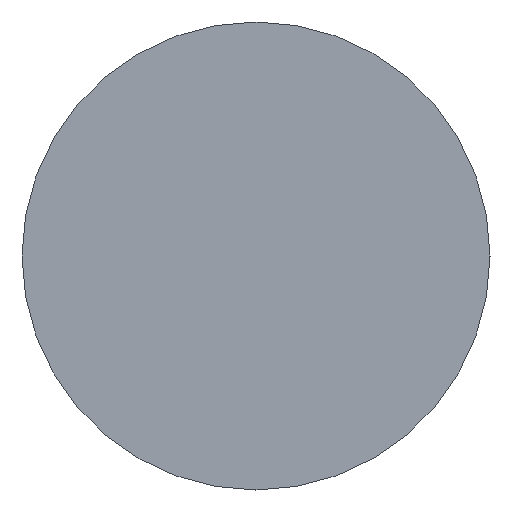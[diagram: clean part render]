
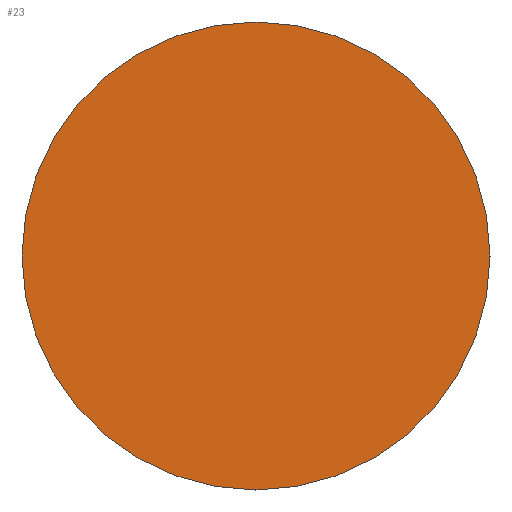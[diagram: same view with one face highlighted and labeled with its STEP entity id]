
A CAD part, left-side view. The second image highlights one B-rep face of the part: STEP entity #23.
In plain terms, the highlighted planar face has unit normal (-1, 0, 0).
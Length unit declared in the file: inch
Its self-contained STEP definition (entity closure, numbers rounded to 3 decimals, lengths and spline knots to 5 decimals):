
#1 = DIRECTION ( 'NONE',  ( 0., 0., -1. ) ) ;
#23 = ADVANCED_FACE ( 'NONE', ( #241 ), #356, .F. ) ;
#36 = DIRECTION ( 'NONE',  ( -1., 0., 0. ) ) ;
#46 = CARTESIAN_POINT ( 'NONE',  ( -6., 0., 0. ) ) ;
#50 = CIRCLE ( 'NONE', #274, 0.375 ) ;
#54 = EDGE_LOOP ( 'NONE', ( #245, #478 ) ) ;
#80 = CIRCLE ( 'NONE', #503, 0.375 ) ;
#100 = EDGE_CURVE ( 'NONE', #331, #449, #80, .T. ) ;
#154 = DIRECTION ( 'NONE',  ( 0., 0., 1. ) ) ;
#195 = CARTESIAN_POINT ( 'NONE',  ( -6., 0.375, 0. ) ) ;
#240 = DIRECTION ( 'NONE',  ( 0., 0., 1. ) ) ;
#241 = FACE_OUTER_BOUND ( 'NONE', #54, .T. ) ;
#245 = ORIENTED_EDGE ( 'NONE', *, *, #456, .T. ) ;
#268 = DIRECTION ( 'NONE',  ( -1., 0., 0. ) ) ;
#274 = AXIS2_PLACEMENT_3D ( 'NONE', #46, #36, #154 ) ;
#327 = AXIS2_PLACEMENT_3D ( 'NONE', #195, #352, #1 ) ;
#331 = VERTEX_POINT ( 'NONE', #424 ) ;
#352 = DIRECTION ( 'NONE',  ( 1., 0., 0. ) ) ;
#356 = PLANE ( 'NONE',  #327 ) ;
#424 = CARTESIAN_POINT ( 'NONE',  ( -6., 0., -0.375 ) ) ;
#436 = CARTESIAN_POINT ( 'NONE',  ( -6., 0., 0. ) ) ;
#449 = VERTEX_POINT ( 'NONE', #507 ) ;
#456 = EDGE_CURVE ( 'NONE', #449, #331, #50, .T. ) ;
#478 = ORIENTED_EDGE ( 'NONE', *, *, #100, .T. ) ;
#503 = AXIS2_PLACEMENT_3D ( 'NONE', #436, #268, #240 ) ;
#507 = CARTESIAN_POINT ( 'NONE',  ( -6., 0., 0.375 ) ) ;
